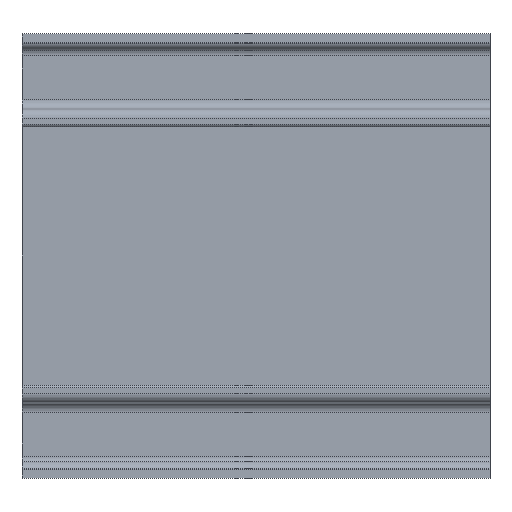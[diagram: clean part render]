
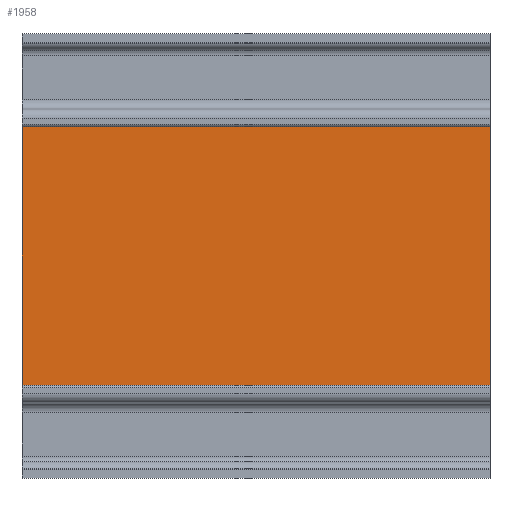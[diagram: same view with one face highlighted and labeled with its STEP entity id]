
A CAD part, front view. The second image highlights one B-rep face of the part: STEP entity #1958.
In plain terms, the highlighted planar face has unit normal (0, -1, 0).
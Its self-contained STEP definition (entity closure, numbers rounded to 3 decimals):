
#26 = DIRECTION ( 'NONE',  ( 0., 0., 1. ) ) ;
#36 = DIRECTION ( 'NONE',  ( 0., 1., 0. ) ) ;
#154 = CARTESIAN_POINT ( 'NONE',  ( -40.816, 45.898, 27.6 ) ) ;
#159 = VECTOR ( 'NONE', #780, 1000. ) ;
#222 = ORIENTED_EDGE ( 'NONE', *, *, #722, .F. ) ;
#232 = LINE ( 'NONE', #154, #655 ) ;
#383 = ORIENTED_EDGE ( 'NONE', *, *, #2033, .T. ) ;
#466 = LINE ( 'NONE', #878, #1459 ) ;
#519 = CARTESIAN_POINT ( 'NONE',  ( 59.184, 45.898, 27.6 ) ) ;
#655 = VECTOR ( 'NONE', #1692, 1000. ) ;
#722 = EDGE_CURVE ( 'NONE', #1585, #1949, #466, .T. ) ;
#780 = DIRECTION ( 'NONE',  ( -1., 0., 0. ) ) ;
#794 = PLANE ( 'NONE',  #2023 ) ;
#878 = CARTESIAN_POINT ( 'NONE',  ( 59.184, 45.898, -27.6 ) ) ;
#1008 = LINE ( 'NONE', #1744, #159 ) ;
#1016 = VECTOR ( 'NONE', #1967, 1000. ) ;
#1261 = EDGE_LOOP ( 'NONE', ( #2213, #222, #1659, #383 ) ) ;
#1322 = VERTEX_POINT ( 'NONE', #1582 ) ;
#1378 = CARTESIAN_POINT ( 'NONE',  ( 59.184, 45.898, 27.6 ) ) ;
#1459 = VECTOR ( 'NONE', #1801, 1000. ) ;
#1527 = CARTESIAN_POINT ( 'NONE',  ( -40.816, 45.898, -27.6 ) ) ;
#1539 = LINE ( 'NONE', #2145, #1016 ) ;
#1582 = CARTESIAN_POINT ( 'NONE',  ( -40.816, 45.898, 27.6 ) ) ;
#1585 = VERTEX_POINT ( 'NONE', #2098 ) ;
#1659 = ORIENTED_EDGE ( 'NONE', *, *, #2159, .F. ) ;
#1692 = DIRECTION ( 'NONE',  ( 0., 0., -1. ) ) ;
#1744 = CARTESIAN_POINT ( 'NONE',  ( 59.184, 45.898, 27.6 ) ) ;
#1801 = DIRECTION ( 'NONE',  ( -1., 0., 0. ) ) ;
#1827 = EDGE_CURVE ( 'NONE', #1322, #1949, #232, .T. ) ;
#1949 = VERTEX_POINT ( 'NONE', #1527 ) ;
#1958 = ADVANCED_FACE ( 'NONE', ( #2238 ), #794, .F. ) ;
#1967 = DIRECTION ( 'NONE',  ( 0., 0., -1. ) ) ;
#2023 = AXIS2_PLACEMENT_3D ( 'NONE', #1378, #36, #26 ) ;
#2033 = EDGE_CURVE ( 'NONE', #2355, #1322, #1008, .T. ) ;
#2098 = CARTESIAN_POINT ( 'NONE',  ( 59.184, 45.898, -27.6 ) ) ;
#2145 = CARTESIAN_POINT ( 'NONE',  ( 59.184, 45.898, 27.6 ) ) ;
#2159 = EDGE_CURVE ( 'NONE', #2355, #1585, #1539, .T. ) ;
#2213 = ORIENTED_EDGE ( 'NONE', *, *, #1827, .T. ) ;
#2238 = FACE_OUTER_BOUND ( 'NONE', #1261, .T. ) ;
#2355 = VERTEX_POINT ( 'NONE', #519 ) ;
